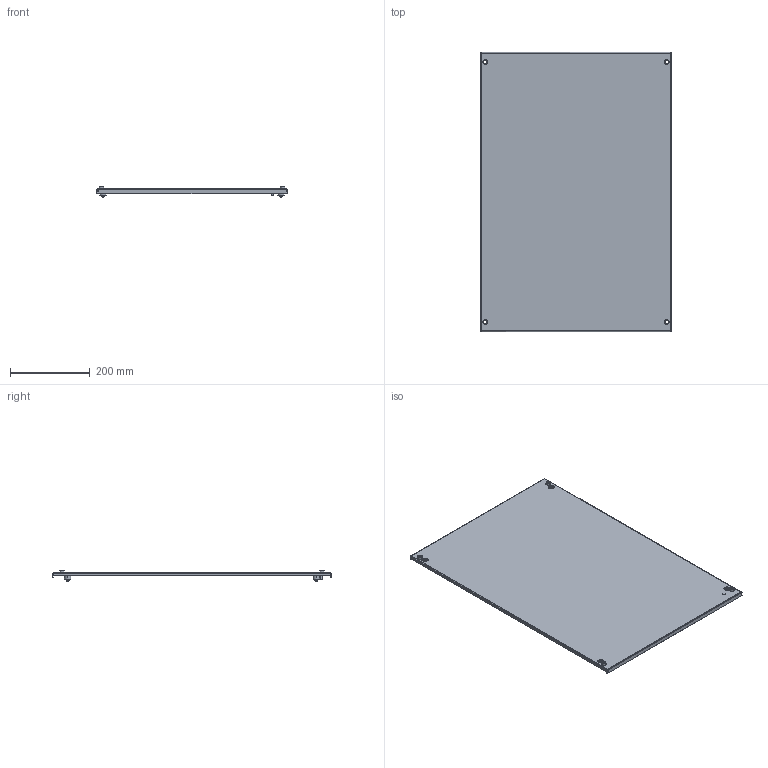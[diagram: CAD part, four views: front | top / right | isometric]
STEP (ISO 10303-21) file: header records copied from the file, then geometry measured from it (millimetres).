
FILE_DESCRIPTION (( 'STEP AP203' ), '1' );
FILE_NAME ('EUPM060070.STEP', '2015-04-22T12:35:48', ( 'Admin' ), ( '' ), 'SwSTEP 2.0', 'SolidWorks 2014', '' );
FILE_SCHEMA (( 'CONFIG_CONTROL_DESIGN' ));
Length unit declared in the file: millimetre
Products named in the file (1): EUPM060070
Bounding box: 477 x 698 x 25.14 mm (x, y, z)
Volume: 533133.4 mm3; surface area: 711295.4 mm2
Topology: 1 solids, 1 shells, 182 faces, 424 edges, 268 vertices
Faces by surface type: cylinder 92, plane 68, cone 10, torus 8, bspline 4
Entity records: 5394 total; most frequent: CARTESIAN_POINT 1026, DIRECTION 961, ORIENTED_EDGE 840, EDGE_CURVE 420, AXIS2_PLACEMENT_3D 375, VERTEX_POINT 268, EDGE_LOOP 222, VECTOR 211
